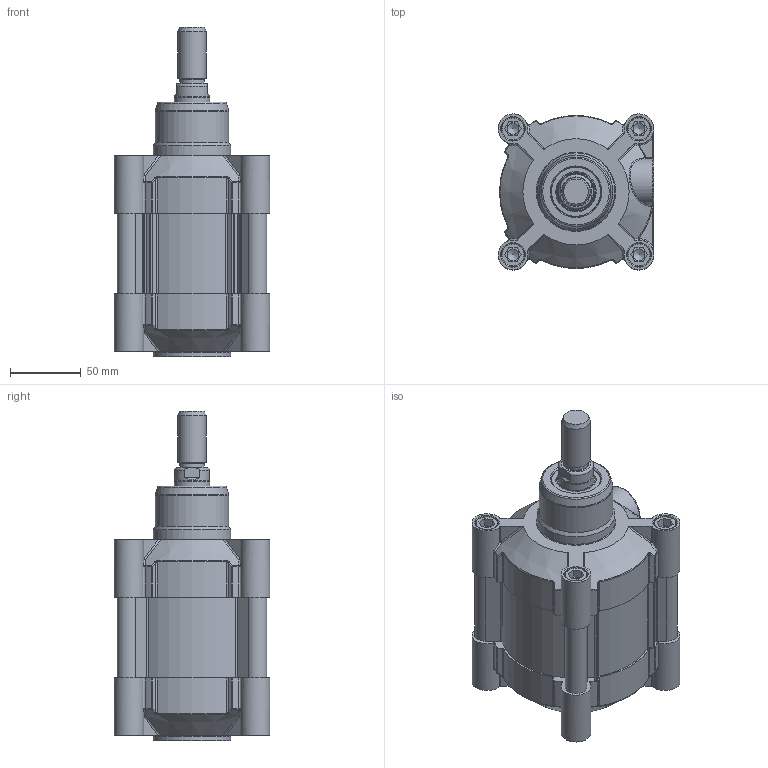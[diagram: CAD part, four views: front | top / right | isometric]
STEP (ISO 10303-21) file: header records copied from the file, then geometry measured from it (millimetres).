
FILE_DESCRIPTION(/* description */ (''),/* implementation_level */ '2;1');
FILE_NAME(/* name */ 'T:\Archivio Inventor\- 00 NUOVI STP PER SITO CON STELO CHE SI MUOVE\SERIE H - U\SERIE HDM\HDM100 - TUBO NUOVO\HDM100.000.GS.M.stp',/* time_stamp */ '2018-08-02T08:51:48+02:00',/* author */ ('carlo.corazza'),/* organization */ (''),/* preprocessor_version */ 'ST-DEVELOPER v16.5',/* originating_system */ 'Autodesk Inventor 2017',/* authorisation */ '');
FILE_SCHEMA (('AUTOMOTIVE_DESIGN { 1 0 10303 214 3 1 1 }'));
Length unit declared in the file: millimetre
Products named in the file (5): HDM100.000.GS.M; TP; TA; STELO-000; CORPO-000
Assembly tree (4 placements, depth 2):
  HDM100.000.GS.M
    TP
    TA
    STELO-000
    CORPO-000
Bounding box: 110 x 110 x 233 mm (x, y, z)
Volume: 772326.8 mm3; surface area: 263128.8 mm2
Topology: 4 solids, 29 shells, 1355 faces, 3135 edges, 1912 vertices
Faces by surface type: plane 408, cylinder 313, bspline 270, torus 126, cone 122, sphere 116
Full cylindrical faces by diameter (mm): 5 x2, 5.9 x2, 6.5 x2, 7.25 x2, 8.376 x8, 9.4 x4, 10 x8, 10.3 x8, 11.8 x4, 11.9 x2, 12 x4, 16 x9, 16.3 x8, 17 x2, 17.5 x1, 18.631 x2, 20 x1, 24.5 x1, 25 x1, 25.8 x1, 25.962 x1, 30 x1, 31.5 x2, 35 x3, 52 x1, 55 x2, 100 x1
Entity records: 43668 total; most frequent: CARTESIAN_POINT 13702, ORIENTED_EDGE 5710, DIRECTION 5644, EDGE_CURVE 2855, AXIS2_PLACEMENT_3D 2293, VERTEX_POINT 1857, EDGE_LOOP 1690, STYLED_ITEM 1359
